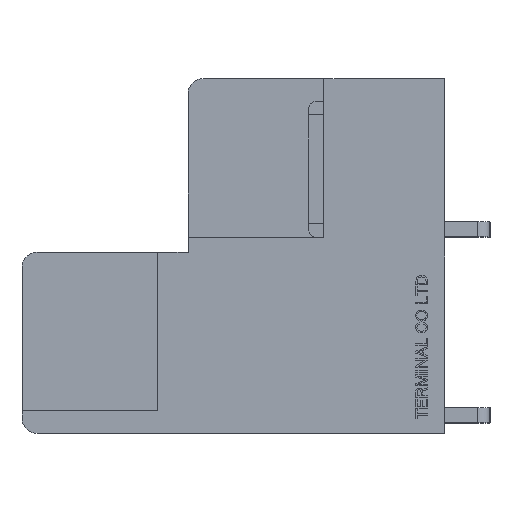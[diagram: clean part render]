
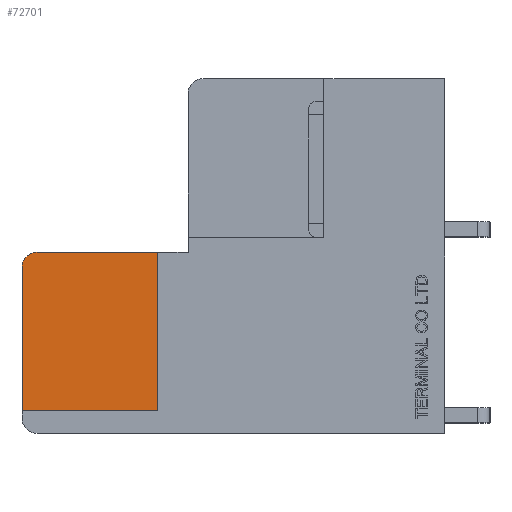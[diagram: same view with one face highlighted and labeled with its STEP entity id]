
A CAD part, left-side view. The second image highlights one B-rep face of the part: STEP entity #72701.
In plain terms, the highlighted planar face has unit normal (-1, 0, 0).
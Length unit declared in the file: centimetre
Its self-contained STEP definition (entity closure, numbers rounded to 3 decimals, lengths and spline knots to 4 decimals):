
#849=CIRCLE('',#124104,0.1);
#4035=VERTEX_POINT('',#95819);
#4036=VERTEX_POINT('',#95820);
#4039=VERTEX_POINT('',#95828);
#4041=VERTEX_POINT('',#95834);
#4042=VERTEX_POINT('',#95836);
#11691=VECTOR('',#80602,1.);
#11695=VECTOR('',#80607,1.);
#11698=VECTOR('',#80611,1.);
#11699=VECTOR('',#80614,1.);
#20316=LINE('',#95818,#11691);
#20320=LINE('',#95827,#11695);
#20323=LINE('',#95833,#11698);
#20324=LINE('',#95837,#11699);
#29039=EDGE_CURVE('',#4035,#4036,#20316,.T.);
#29043=EDGE_CURVE('',#4039,#4035,#20320,.T.);
#29046=EDGE_CURVE('',#4041,#4036,#20323,.T.);
#29047=EDGE_CURVE('',#4042,#4041,#849,.T.);
#29048=EDGE_CURVE('',#4039,#4042,#20324,.T.);
#40808=ORIENTED_EDGE('',*,*,#29043,.T.);
#40809=ORIENTED_EDGE('',*,*,#29039,.T.);
#40810=ORIENTED_EDGE('',*,*,#29046,.F.);
#40811=ORIENTED_EDGE('',*,*,#29047,.F.);
#40812=ORIENTED_EDGE('',*,*,#29048,.F.);
#63223=EDGE_LOOP('',(#40808,#40809,#40810,#40811,#40812));
#67964=FACE_BOUND('',#63223,.T.);
#72701=ADVANCED_FACE('',(#67964),#77025,.F.);
#77025=PLANE('',#124103);
#80602=DIRECTION('',(0.,0.,1.));
#80607=DIRECTION('',(0.,-1.,0.));
#80610=DIRECTION('',(1.,0.,0.));
#80611=DIRECTION('',(0.,-1.,0.));
#80612=DIRECTION('',(1.,0.,0.));
#80613=DIRECTION('',(0.,0.,-0.1));
#80614=DIRECTION('',(0.,0.,1.));
#95818=CARTESIAN_POINT('',(-2.8746,-0.145,0.1186));
#95819=CARTESIAN_POINT('',(-2.8746,-0.145,-0.3689));
#95820=CARTESIAN_POINT('',(-2.8746,-0.145,0.6811));
#95827=CARTESIAN_POINT('',(-2.8746,-0.1777,-0.3689));
#95828=CARTESIAN_POINT('',(-2.8746,0.755,-0.3689));
#95832=CARTESIAN_POINT('',(-2.8746,-0.6604,0.0811));
#95833=CARTESIAN_POINT('',(-2.8746,0.655,0.6811));
#95834=CARTESIAN_POINT('',(-2.8746,0.655,0.6811));
#95835=CARTESIAN_POINT('',(-2.8746,0.655,0.5811));
#95836=CARTESIAN_POINT('',(-2.8746,0.755,0.5811));
#95837=CARTESIAN_POINT('',(-2.8746,0.755,-0.4189));
#124103=AXIS2_PLACEMENT_3D('',#95832,#80610,$);
#124104=AXIS2_PLACEMENT_3D('',#95835,#80612,#80613);
